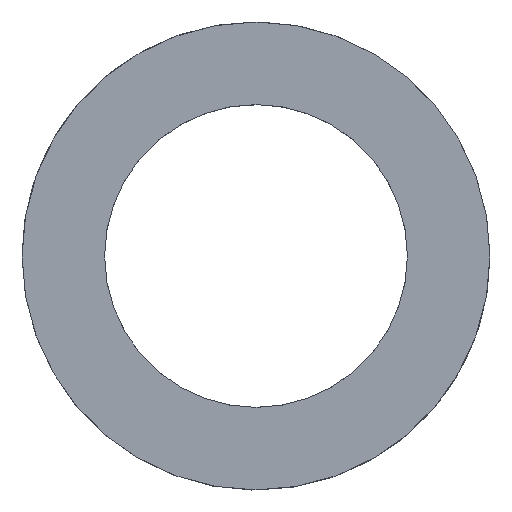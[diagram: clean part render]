
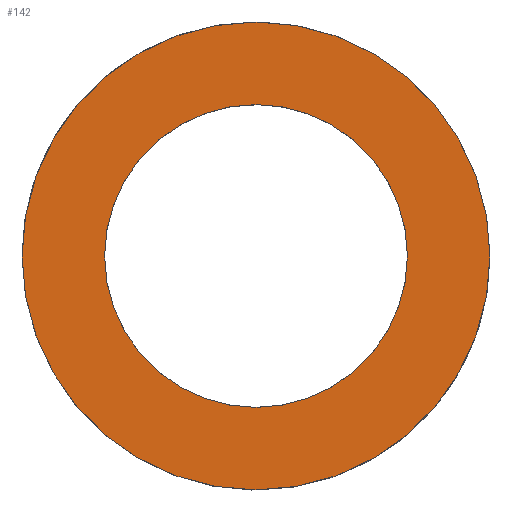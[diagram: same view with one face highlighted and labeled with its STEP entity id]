
A CAD part, top view. The second image highlights one B-rep face of the part: STEP entity #142.
In plain terms, the highlighted planar face has unit normal (0, 0, 1).
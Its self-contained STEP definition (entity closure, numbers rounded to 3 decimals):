
#11 = PLANE ( 'NONE',  #137 ) ;
#20 = ORIENTED_EDGE ( 'NONE', *, *, #89, .F. ) ;
#36 = EDGE_LOOP ( 'NONE', ( #425, #20 ) ) ;
#73 = CIRCLE ( 'NONE', #362, 13.75 ) ;
#83 = EDGE_CURVE ( 'NONE', #145, #145, #73, .T. ) ;
#86 = CARTESIAN_POINT ( 'NONE',  ( 0., 0., 3. ) ) ;
#89 = EDGE_CURVE ( 'NONE', #452, #459, #322, .T. ) ;
#94 = DIRECTION ( 'NONE',  ( 0., 0., -1. ) ) ;
#129 = DIRECTION ( 'NONE',  ( 0., 0., -1. ) ) ;
#137 = AXIS2_PLACEMENT_3D ( 'NONE', #299, #303, #458 ) ;
#142 = ADVANCED_FACE ( 'NONE', ( #224, #377 ), #11, .F. ) ;
#145 = VERTEX_POINT ( 'NONE', #185 ) ;
#149 = AXIS2_PLACEMENT_3D ( 'NONE', #366, #129, #289 ) ;
#185 = CARTESIAN_POINT ( 'NONE',  ( 13.75, 0., 3. ) ) ;
#224 = FACE_BOUND ( 'NONE', #302, .T. ) ;
#248 = DIRECTION ( 'NONE',  ( -1., 0., 0. ) ) ;
#289 = DIRECTION ( 'NONE',  ( -1., 0., 0. ) ) ;
#299 = CARTESIAN_POINT ( 'NONE',  ( 0., 13.75, 3. ) ) ;
#302 = EDGE_LOOP ( 'NONE', ( #428 ) ) ;
#303 = DIRECTION ( 'NONE',  ( 0., 0., -1. ) ) ;
#322 = CIRCLE ( 'NONE', #149, 21.25 ) ;
#362 = AXIS2_PLACEMENT_3D ( 'NONE', #86, #482, #439 ) ;
#363 = CARTESIAN_POINT ( 'NONE',  ( 21.25, 0., 3. ) ) ;
#366 = CARTESIAN_POINT ( 'NONE',  ( 0., 0., 3. ) ) ;
#372 = EDGE_CURVE ( 'NONE', #459, #452, #479, .T. ) ;
#377 = FACE_OUTER_BOUND ( 'NONE', #36, .T. ) ;
#425 = ORIENTED_EDGE ( 'NONE', *, *, #372, .F. ) ;
#428 = ORIENTED_EDGE ( 'NONE', *, *, #83, .F. ) ;
#439 = DIRECTION ( 'NONE',  ( 1., 0., 0. ) ) ;
#452 = VERTEX_POINT ( 'NONE', #363 ) ;
#458 = DIRECTION ( 'NONE',  ( 0., -1., 0. ) ) ;
#459 = VERTEX_POINT ( 'NONE', #483 ) ;
#479 = CIRCLE ( 'NONE', #504, 21.25 ) ;
#482 = DIRECTION ( 'NONE',  ( 0., 0., 1. ) ) ;
#483 = CARTESIAN_POINT ( 'NONE',  ( -21.25, 0., 3. ) ) ;
#485 = CARTESIAN_POINT ( 'NONE',  ( 0., 0., 3. ) ) ;
#504 = AXIS2_PLACEMENT_3D ( 'NONE', #485, #94, #248 ) ;
